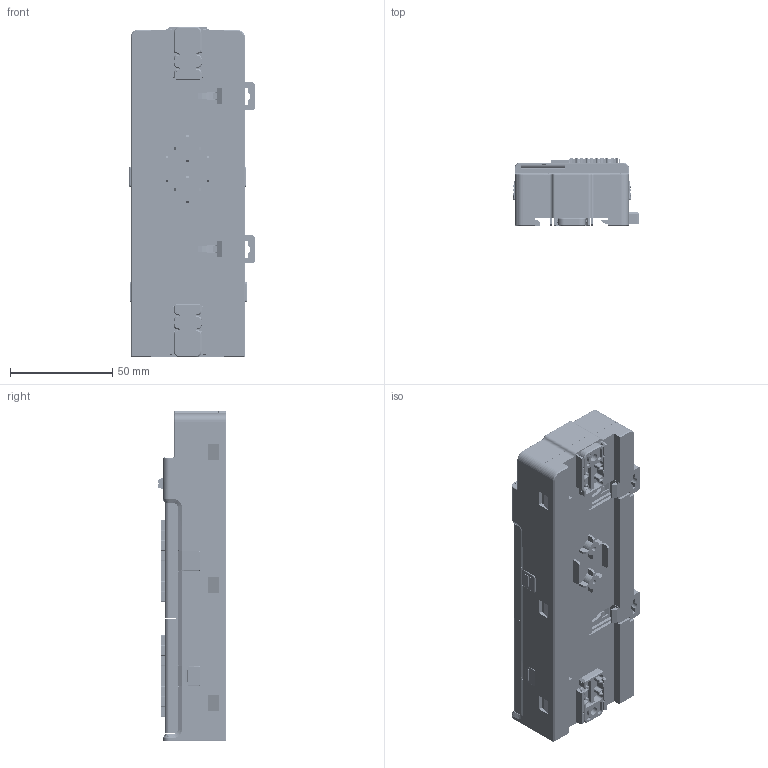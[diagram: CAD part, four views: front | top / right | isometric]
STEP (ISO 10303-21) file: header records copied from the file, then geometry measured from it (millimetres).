
FILE_DESCRIPTION(/* description */ (''),/* implementation_level */ '2;1');
FILE_NAME(/* name */ 'G2-FS-长款-3位一体欧式端子.stp',/* time_stamp */ '2022-12-03T11:49:16+08:00',/* author */ (''),/* organization */ (''),/* preprocessor_version */ 'ST-DEVELOPER v16',/* originating_system */ 'SIEMENS PLM Software NX 10.0',/* authorisation */ '');
FILE_SCHEMA (('AP203_CONFIGURATION_CONTROLLED_3D_DESIGN_OF_MECHANICAL_PARTS_AND_ASSEMBLIES_MIM_LF { 1 0 10303 403 2 1 2}'));
Products named in the file (1): 734912C0372Faqng
Bounding box: 61.81 x 33.43 x 162 mm (x, y, z)
Volume: 224813.1 mm3; surface area: 145499.1 mm2
Topology: 85 solids, 232 shells, 34644 faces, 93971 edges, 60176 vertices
Faces by surface type: plane 23449, cylinder 7697, cone 1425, torus 1100, bspline 863, extrusion 84, sphere 22, revolution 4
Full cylindrical faces by diameter (mm): 0.6 x4, 0.76 x6, 0.8 x13, 0.9 x1, 0.92 x18, 1 x5, 1.1 x2, 1.2 x25, 1.24 x16, 1.26 x3, 1.36 x24, 1.5 x5, 1.64 x20, 1.7 x4, 2.35 x2, 3.2 x3, 3.3 x3, 4.2 x2, 6.05 x3, 6.15 x3
Entity records: 1120509 total; most frequent: CARTESIAN_POINT 245687, ORIENTED_EDGE 186802, DIRECTION 174998, EDGE_CURVE 93481, VECTOR 71414, LINE 71330, VERTEX_POINT 60106, AXIS2_PLACEMENT_3D 51790
